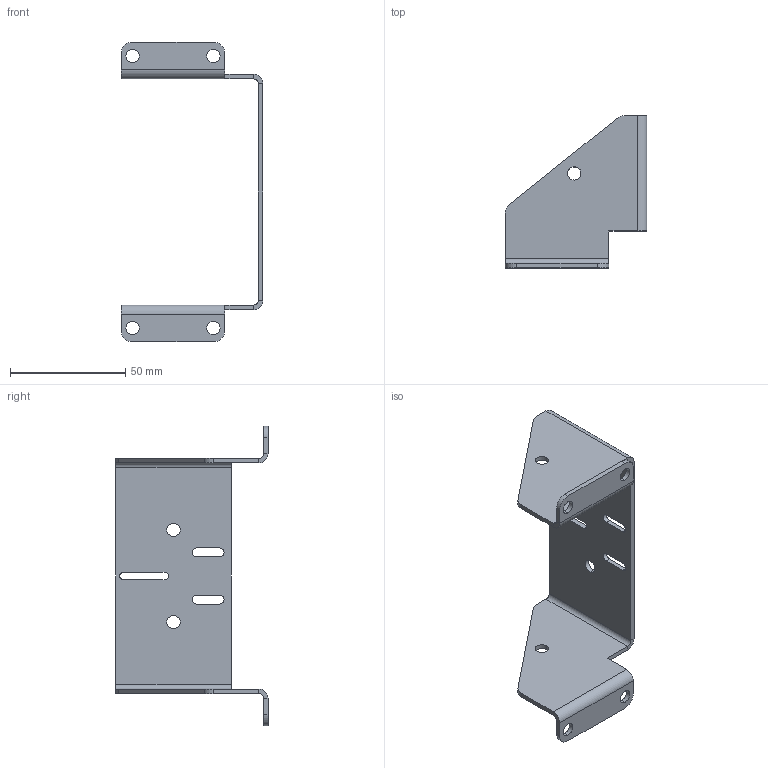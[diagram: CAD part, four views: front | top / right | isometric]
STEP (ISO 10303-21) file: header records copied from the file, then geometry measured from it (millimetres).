
FILE_DESCRIPTION (( 'STEP AP214' ), '1' );
FILE_NAME ('02486.02 Camera Mount 80.STEP', '2021-04-19T07:24:00', ( '' ), ( '' ), 'SwSTEP 2.0', 'SolidWorks 2013', '' );
FILE_SCHEMA (( 'AUTOMOTIVE_DESIGN' ));
Length unit declared in the file: millimetre
Products named in the file (1): 02486.02 Camera Mount 80
Bounding box: 61.5 x 66 x 130 mm (x, y, z)
Volume: 22207.2 mm3; surface area: 23899.7 mm2
Topology: 1 solids, 1 shells, 80 faces, 202 edges, 124 vertices
Faces by surface type: plane 42, cylinder 38
Entity records: 2466 total; most frequent: DIRECTION 440, CARTESIAN_POINT 407, ORIENTED_EDGE 404, EDGE_CURVE 202, AXIS2_PLACEMENT_3D 157, LINE 126, VECTOR 126, VERTEX_POINT 124
